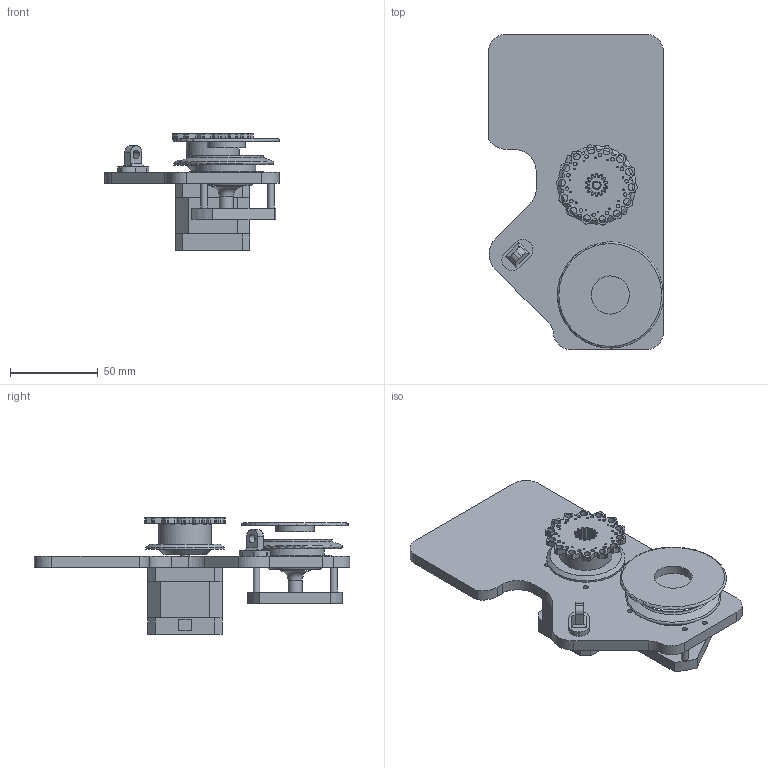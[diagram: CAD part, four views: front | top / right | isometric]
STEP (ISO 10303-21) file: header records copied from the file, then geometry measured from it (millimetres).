
FILE_DESCRIPTION(/* description */ (''),/* implementation_level */ '2;1');
FILE_NAME(/* name */ '/Users/alfonsoparrarubio/Downloads/[V1]Urumbot_motor-spool-plate.step',/* time_stamp */ '2021-07-22T11:33:50-04:00',/* author */ (''),/* organization */ (''),/* preprocessor_version */ 'ST-DEVELOPER v18.1',/* originating_system */ 'Autodesk Translation Framework v10.9.0.1377',/* authorisation */ '');
FILE_SCHEMA (('AUTOMOTIVE_DESIGN { 1 0 10303 214 3 1 1 }'));
Length unit declared in the file: millimetre
Products named in the file (2): Space Allocation Model; Motor_Bed
Assembly tree (2 placements, depth 2):
  Space Allocation Model
    Motor_Bed  x2
Bounding box: 99.78 x 180 x 66.3 mm (x, y, z)
Volume: 448314.8 mm3; surface area: 157766.6 mm2
Topology: 26 solids, 26 shells, 1300 faces, 3708 edges, 2462 vertices
Faces by surface type: plane 650, cylinder 602, torus 38, cone 10
Full cylindrical faces by diameter (mm): 1 x28, 2.006 x28, 3 x40, 3.912 x6, 3.944 x28, 5 x4, 8 x2, 9.7 x2, 21.781 x2, 22 x4, 25.901 x2, 30 x6, 33.552 x2, 42 x4, 44.759 x2
Entity records: 21782 total; most frequent: DIRECTION 3890, CARTESIAN_POINT 3740, ORIENTED_EDGE 3708, EDGE_CURVE 1854, AXIS2_PLACEMENT_3D 1381, VERTEX_POINT 1231, LINE 1128, VECTOR 1128
